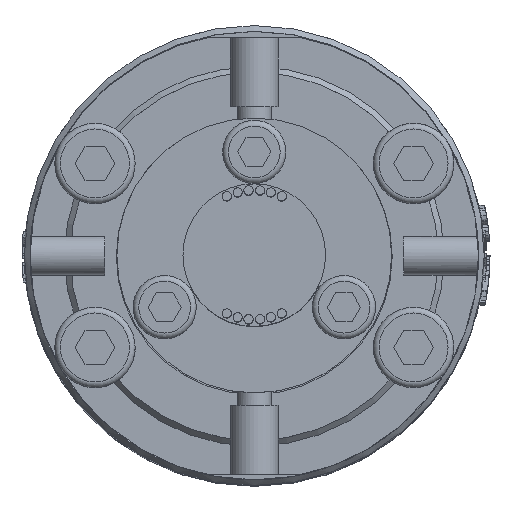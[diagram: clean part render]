
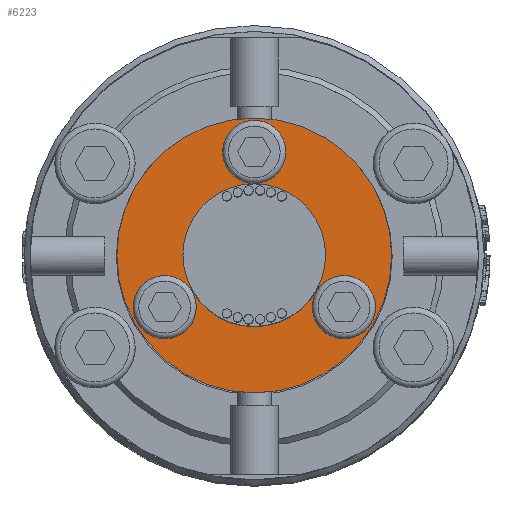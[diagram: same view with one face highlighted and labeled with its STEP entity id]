
A CAD part, top view. The second image highlights one B-rep face of the part: STEP entity #6223.
In plain terms, the highlighted planar face has unit normal (0, 0, 1).
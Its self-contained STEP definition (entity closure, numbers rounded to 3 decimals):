
#6223=ADVANCED_FACE('',(#7898,#7899,#7900,#7901,#7902),#7380,.T.);
#7380=PLANE('',#21054);
#7898=FACE_BOUND('',#8317,.T.);
#7899=FACE_BOUND('',#8318,.T.);
#7900=FACE_BOUND('',#8319,.T.);
#7901=FACE_BOUND('',#8320,.T.);
#7902=FACE_BOUND('',#8321,.T.);
#8317=EDGE_LOOP('',(#9848));
#8318=EDGE_LOOP('',(#9849));
#8319=EDGE_LOOP('',(#9850));
#8320=EDGE_LOOP('',(#9851));
#8321=EDGE_LOOP('',(#9852));
#9848=ORIENTED_EDGE('',*,*,#17803,.F.);
#9849=ORIENTED_EDGE('',*,*,#17804,.F.);
#9850=ORIENTED_EDGE('',*,*,#17805,.F.);
#9851=ORIENTED_EDGE('',*,*,#17802,.F.);
#9852=ORIENTED_EDGE('',*,*,#17806,.F.);
#15718=VERTEX_POINT('',#25139);
#15719=VERTEX_POINT('',#25142);
#15720=VERTEX_POINT('',#25144);
#15721=VERTEX_POINT('',#25146);
#15722=VERTEX_POINT('',#25148);
#17802=EDGE_CURVE('',#15718,#15718,#20737,.T.);
#17803=EDGE_CURVE('',#15719,#15719,#20738,.T.);
#17804=EDGE_CURVE('',#15720,#15720,#20739,.T.);
#17805=EDGE_CURVE('',#15721,#15721,#20740,.T.);
#17806=EDGE_CURVE('',#15722,#15722,#20741,.T.);
#20737=CIRCLE('',#21048,6.2);
#20738=CIRCLE('',#21050,2.75);
#20739=CIRCLE('',#21051,2.75);
#20740=CIRCLE('',#21052,2.75);
#20741=CIRCLE('',#21053,11.95);
#21048=AXIS2_PLACEMENT_3D('',#25138,#22185,#22186);
#21050=AXIS2_PLACEMENT_3D('',#25141,#22189,#22190);
#21051=AXIS2_PLACEMENT_3D('',#25143,#22191,#22192);
#21052=AXIS2_PLACEMENT_3D('',#25145,#22193,#22194);
#21053=AXIS2_PLACEMENT_3D('',#25147,#22195,#22196);
#21054=AXIS2_PLACEMENT_3D('',#25149,#22197,#22198);
#22185=DIRECTION('',(0.,0.,1.));
#22186=DIRECTION('',(0.,1.,0.));
#22189=DIRECTION('',(0.,0.,1.));
#22190=DIRECTION('',(1.,0.,0.));
#22191=DIRECTION('',(0.,0.,1.));
#22192=DIRECTION('',(-0.5,0.866,0.));
#22193=DIRECTION('',(0.,0.,1.));
#22194=DIRECTION('',(-0.5,-0.866,0.));
#22195=DIRECTION('',(0.,0.,-1.));
#22196=DIRECTION('',(0.,1.,0.));
#22197=DIRECTION('',(0.,0.,1.));
#22198=DIRECTION('',(0.,1.,0.));
#25138=CARTESIAN_POINT('',(0.,0.,64.5));
#25139=CARTESIAN_POINT('',(0.,6.2,64.5));
#25141=CARTESIAN_POINT('',(0.,9.,64.5));
#25142=CARTESIAN_POINT('',(2.75,9.,64.5));
#25143=CARTESIAN_POINT('',(-7.794,-4.5,64.5));
#25144=CARTESIAN_POINT('',(-9.169,-2.118,64.5));
#25145=CARTESIAN_POINT('',(7.794,-4.5,64.5));
#25146=CARTESIAN_POINT('',(6.419,-6.882,64.5));
#25147=CARTESIAN_POINT('',(0.,0.,64.5));
#25148=CARTESIAN_POINT('',(0.,11.95,64.5));
#25149=CARTESIAN_POINT('',(0.,0.,64.5));
